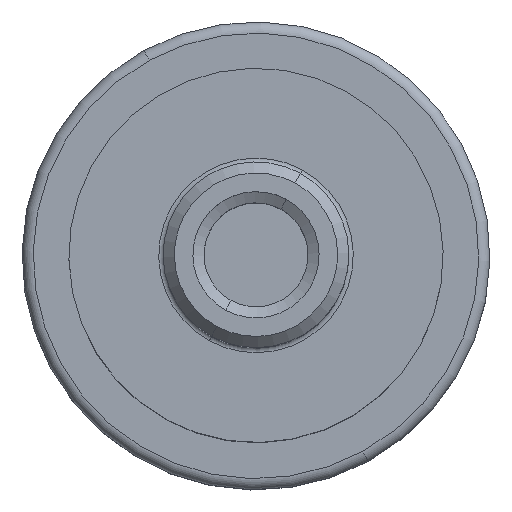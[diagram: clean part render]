
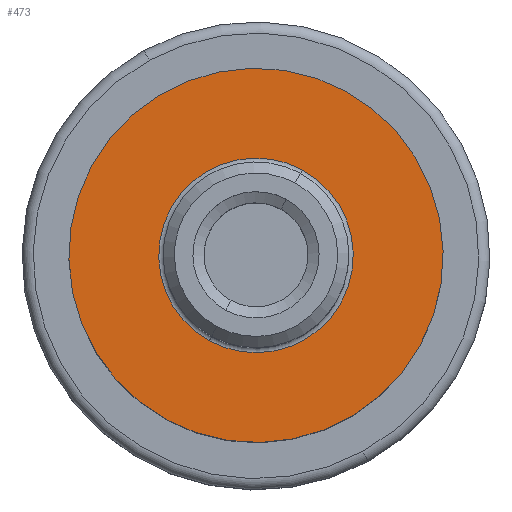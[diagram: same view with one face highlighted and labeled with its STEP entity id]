
A CAD part, top view. The second image highlights one B-rep face of the part: STEP entity #473.
In plain terms, the highlighted planar face has unit normal (0, 0, 1).
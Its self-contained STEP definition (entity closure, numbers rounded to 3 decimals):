
#410=AXIS2_PLACEMENT_3D('Circle Axis2P3D',#408,#409,$) ;
#436=AXIS2_PLACEMENT_3D('Circle Axis2P3D',#434,#435,$) ;
#449=AXIS2_PLACEMENT_3D('Plane Axis2P3D',#446,#447,#448) ;
#453=AXIS2_PLACEMENT_3D('Circle Axis2P3D',#451,#452,$) ;
#462=AXIS2_PLACEMENT_3D('Circle Axis2P3D',#460,#461,$) ;
#408=CARTESIAN_POINT('Axis2P3D Location',(0.,0.,-50.)) ;
#412=CARTESIAN_POINT('Vertex',(6.28,11.496,-50.)) ;
#414=CARTESIAN_POINT('Vertex',(-6.28,-11.496,-50.)) ;
#434=CARTESIAN_POINT('Axis2P3D Location',(0.,0.,-50.)) ;
#446=CARTESIAN_POINT('Axis2P3D Location',(0.,25.2,-50.)) ;
#451=CARTESIAN_POINT('Axis2P3D Location',(0.,0.,-50.)) ;
#455=CARTESIAN_POINT('Vertex',(12.082,22.115,-50.)) ;
#457=CARTESIAN_POINT('Vertex',(-12.082,-22.115,-50.)) ;
#460=CARTESIAN_POINT('Axis2P3D Location',(0.,0.,-50.)) ;
#409=DIRECTION('Axis2P3D Direction',(0.,0.,-1.)) ;
#435=DIRECTION('Axis2P3D Direction',(0.,0.,-1.)) ;
#447=DIRECTION('Axis2P3D Direction',(0.,0.,-1.)) ;
#448=DIRECTION('Axis2P3D XDirection',(1.,0.,0.)) ;
#452=DIRECTION('Axis2P3D Direction',(0.,0.,-1.)) ;
#461=DIRECTION('Axis2P3D Direction',(0.,0.,-1.)) ;
#466=ORIENTED_EDGE('',*,*,#459,.F.) ;
#467=ORIENTED_EDGE('',*,*,#464,.F.) ;
#470=ORIENTED_EDGE('',*,*,#438,.T.) ;
#471=ORIENTED_EDGE('',*,*,#416,.T.) ;
#472=FACE_BOUND('',#469,.T.) ;
#473=ADVANCED_FACE('NOCUT',(#468,#472),#450,.F.) ;
#411=CIRCLE('generated circle',#410,13.1) ;
#437=CIRCLE('generated circle',#436,13.1) ;
#454=CIRCLE('generated circle',#453,25.2) ;
#463=CIRCLE('generated circle',#462,25.2) ;
#416=EDGE_CURVE('',#413,#415,#411,.T.) ;
#438=EDGE_CURVE('',#415,#413,#437,.T.) ;
#459=EDGE_CURVE('',#456,#458,#454,.T.) ;
#464=EDGE_CURVE('',#458,#456,#463,.T.) ;
#465=EDGE_LOOP('',(#466,#467)) ;
#469=EDGE_LOOP('',(#470,#471)) ;
#468=FACE_OUTER_BOUND('',#465,.T.) ;
#450=PLANE('',#449) ;
#413=VERTEX_POINT('',#412) ;
#415=VERTEX_POINT('',#414) ;
#456=VERTEX_POINT('',#455) ;
#458=VERTEX_POINT('',#457) ;
